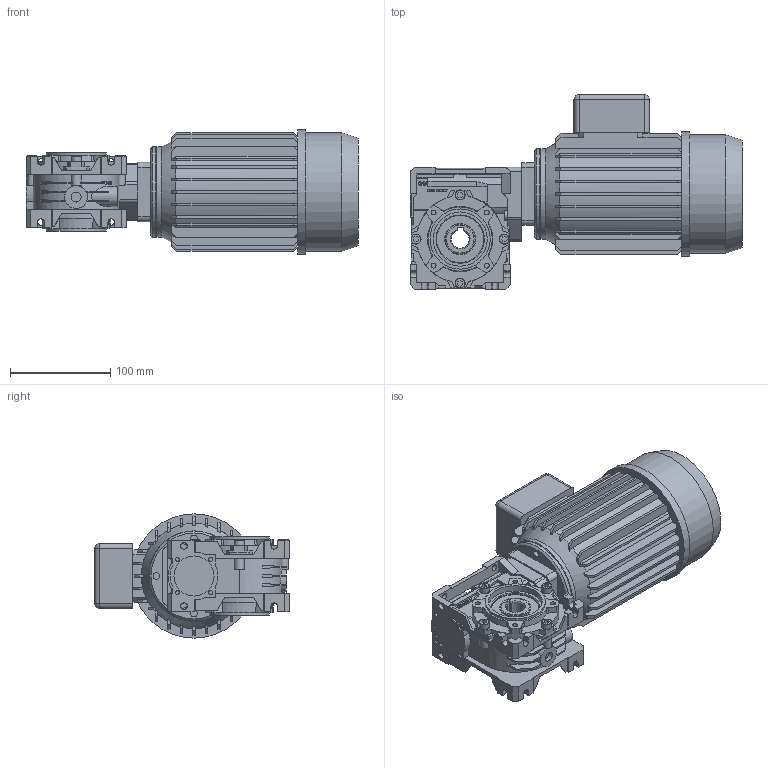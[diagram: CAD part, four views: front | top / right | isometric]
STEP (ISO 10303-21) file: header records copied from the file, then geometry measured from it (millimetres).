
FILE_DESCRIPTION( ( 'Unknown' ), '1' );
FILE_NAME( 'E:/services/configuratordownloads/customers/HYDROMEC/VSFQ/download/6F2AA4C876161C6BAB5A8A692C31609A/STEP/6F2AA4C876161C6BAB5A8A692C31609A.3d.stp', 'Unknown', ( 'Unknown' ), ( 'Unknown' ), 'PSStep 10.1', 'Unknown', ' ' );
FILE_SCHEMA( ( 'AUTOMOTIVE_DESIGN { 1 0 10303 214 1 1 1 1 }' ) );
Length unit declared in the file: millimetre
Products named in the file (1): Q458800
Bounding box: 331 x 194 x 124 mm (x, y, z)
Volume: 2810778.8 mm3; surface area: 250014.5 mm2
Topology: 1 solids, 14 shells, 1119 faces, 3014 edges, 1995 vertices
Faces by surface type: plane 880, cylinder 122, cone 54, bspline 52, torus 7, sphere 4
Full cylindrical faces by diameter (mm): 4.134 x4, 4.2 x4, 4.917 x16, 6.5 x4, 10 x4, 20 x1, 25 x1, 31 x2, 40 x2, 45 x1, 47 x2, 54 x2, 60 x3, 90 x1, 105 x1, 118 x1, 124 x1
Entity records: 45788 total; most frequent: CARTESIAN_POINT 9467, ORIENTED_EDGE 5770, DIRECTION 5304, EDGE_CURVE 2885, LINE 2168, VECTOR 2168, VERTEX_POINT 1945, AXIS2_PLACEMENT_3D 1568
